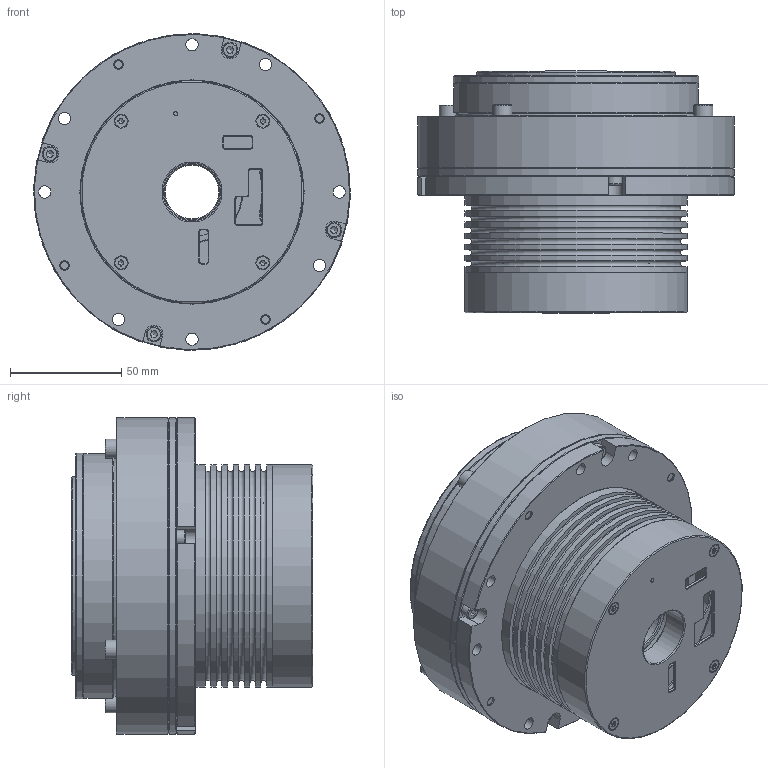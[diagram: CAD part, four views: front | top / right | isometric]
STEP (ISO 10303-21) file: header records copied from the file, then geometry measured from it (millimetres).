
FILE_DESCRIPTION (( 'STEP AP203' ), '1' );
FILE_NAME ('RH-32-100-E-N-D.STEP', '2026-01-08T09:42:42', ( '' ), ( '' ), 'SwSTEP 2.0', 'SolidWorks 2020', '' );
FILE_SCHEMA (( 'CONFIG_CONTROL_DESIGN' ));
Length unit declared in the file: millimetre
Products named in the file (9): RH-32-100-E-N-D; 8MT.034.005（RH-32 机座）; 8MT.013.064（RH-32 驱动器盖-ECAT）; GB╱T 70.1-2008[内六角圆柱头螺钉M5×35]_M5×35; 8MT.013.017（RH-32 端盖）; GB╱T 70.3-2008[内六角沉头螺钉M4×25]_M4×25; WHS-32-XX-I_Default<偌樓馱>; GB╱T 2673.1-2018[内六角花形沉头螺钉M2-M4M3×20]_M3×20; 8MT.013.051（RH-32 减速机密封盖-双编）_Default<按加工>
Assembly tree (15 placements, depth 2):
  RH-32-100-E-N-D
    8MT.013.051（RH-32 减速机密封盖-双编）_Default<按加工>
    8MT.013.017（RH-32 端盖）
    8MT.034.005（RH-32 机座）
    8MT.013.064（RH-32 驱动器盖-ECAT）
    WHS-32-XX-I_Default<偌樓馱>
    GB╱T 70.1-2008[内六角圆柱头螺钉M5×35]_M5×35  x4
    GB╱T 70.3-2008[内六角沉头螺钉M4×25]_M4×25  x2
    GB╱T 2673.1-2018[内六角花形沉头螺钉M2-M4M3×20]_M3×20  x4
Bounding box: 142 x 108.4 x 142 mm (x, y, z)
Volume: 610138.8 mm3; surface area: 282271.8 mm2
Topology: 33 solids, 36 shells, 1010 faces, 2305 edges, 1461 vertices
Faces by surface type: plane 394, cylinder 374, cone 185, torus 39, bspline 18
Full cylindrical faces by diameter (mm): 1.6 x3, 1.9 x1, 2.5 x11, 2.677 x4, 3 x8, 3.3 x12, 3.4 x4, 3.5 x4, 4 x18, 4.2 x20, 4.5 x18, 5 x4, 5.2 x4, 5.3 x16, 5.5 x40, 7 x8, 7.5 x8, 8 x4, 8.5 x4, 8.96 x2, 24 x1, 26 x1, 29 x2, 31 x1, 32 x2, 40 x1, 44 x1, 45 x1, 48 x1, 50 x1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
Entity records: 24163 total; most frequent: CARTESIAN_POINT 4809, DIRECTION 3980, ORIENTED_EDGE 2964, AXIS2_PLACEMENT_3D 1713, EDGE_LOOP 1552, EDGE_CURVE 1482, VERTEX_POINT 1152, FACE_OUTER_BOUND 1150
